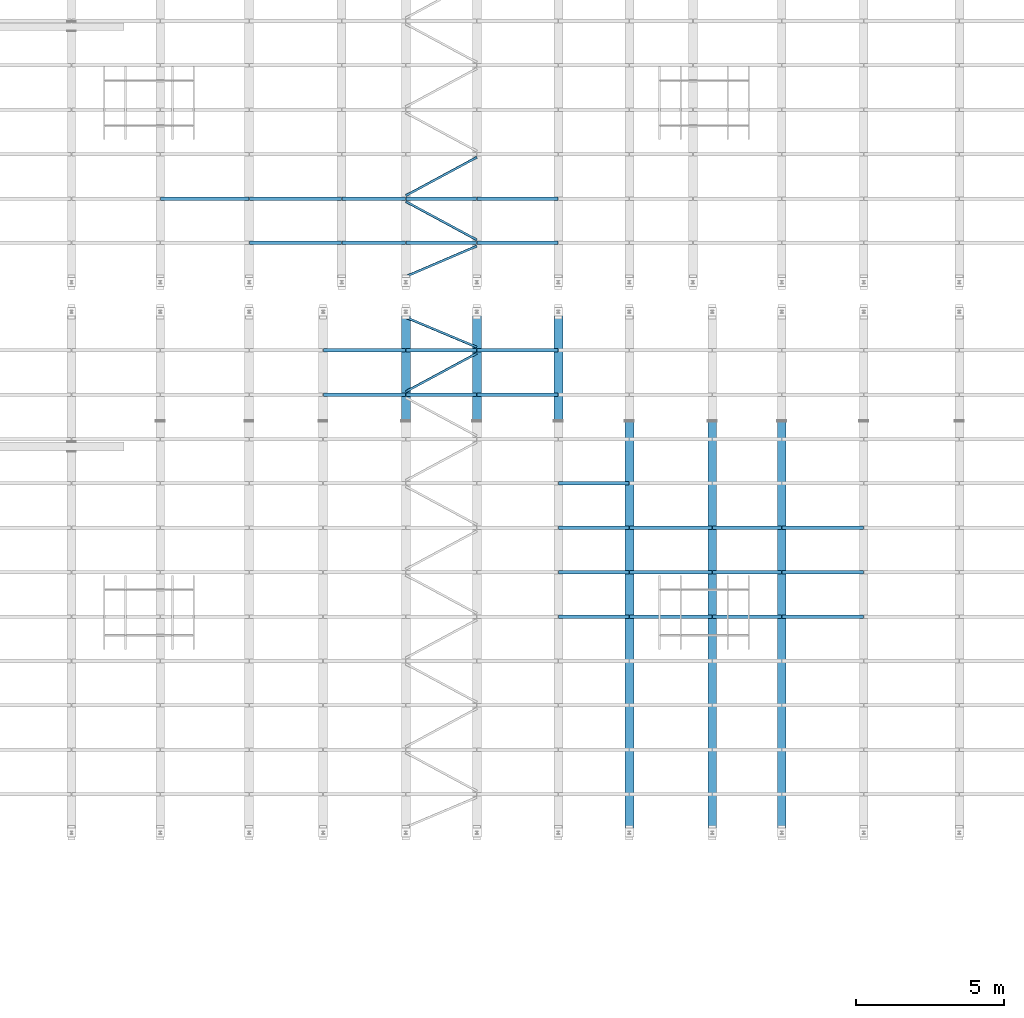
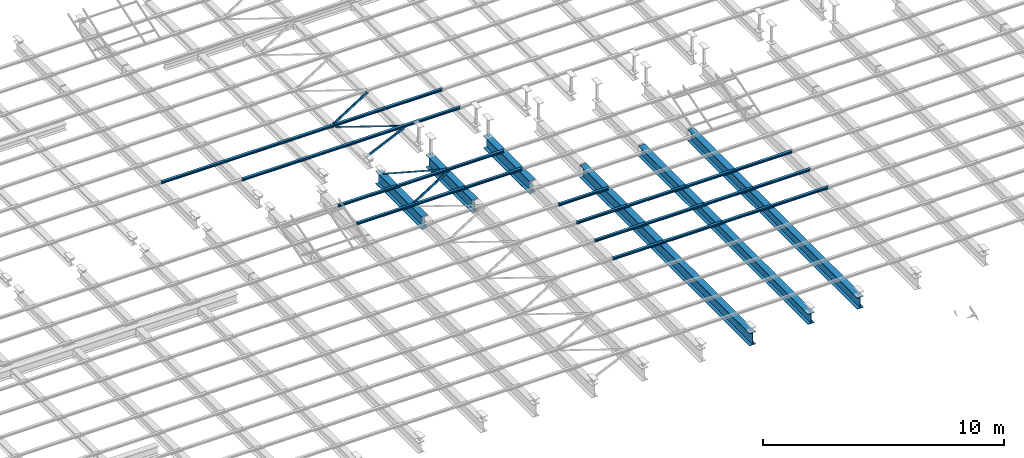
# One storey, part 73 of 139: 39 beams.
"""IFC2X3 building model written with IfcOpenShell, lengths in metres."""

from ifc_helpers import new_model, entity, si_unit, converted_unit, derived_unit, frame, origin, place, context, subcontext, project, spatial, polyline, outline, extrude, material, element, save


model = new_model("IFC2X3")

# Units and contexts
model_context = context("Model", 3, precision=1e-05, world=origin())
body_context = subcontext(model_context, "Body", "Model", "MODEL_VIEW")
ifc_project = project(units=[si_unit("LENGTHUNIT", "METRE"), si_unit("AREAUNIT", "SQUARE_METRE"), si_unit("VOLUMEUNIT", "CUBIC_METRE"), si_unit("MASSUNIT", "GRAM", prefix="KILO"), converted_unit("PLANEANGLEUNIT", "DEGREE", entity("IfcPlaneAngleMeasure", 0.0174532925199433), si_unit("PLANEANGLEUNIT", "RADIAN"), dimensions=[0, 0, 0, 0, 0, 0, 0]), derived_unit("THERMALTRANSMITTANCEUNIT", [(si_unit("POWERUNIT", "WATT"), 1), (si_unit("THERMODYNAMICTEMPERATUREUNIT", "KELVIN"), -1), (si_unit("LENGTHUNIT", "METRE"), -2)]), derived_unit("VOLUMETRICFLOWRATEUNIT", [(si_unit("LENGTHUNIT", "METRE"), 3), (converted_unit("TIMEUNIT", "hour", entity("IfcTimeMeasure", 3600.0), si_unit("TIMEUNIT", "SECOND"), dimensions=[0, 0, 1, 0, 0, 0, 0]), -1), (si_unit("LENGTHUNIT", "METRE"), -1)])], contexts=[model_context])

# Site, building, storey
site_placement = place(None, origin())
site = spatial("IfcSite", under=ifc_project, at=site_placement, Name="TWP_Speiseverteilzentrum SBW VZ II", CompositionType="ELEMENT")
building_placement = place(site_placement, origin())
building = spatial("IfcBuilding", under=site, at=building_placement, Name="Speiseverteilzentrum SBW VZ II", CompositionType="ELEMENT")
storey_placement = place(building_placement, frame((0.0, 0.0, 7.1307)))
storey = spatial("IfcBuildingStorey", under=building, at=storey_placement, Name="Wartung_FFB", CompositionType="ELEMENT", Elevation=7.1307)

# Beams
ifc_material_1 = material(Name="S235")
beam_1_placement = place(storey_placement, frame((84.3500000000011, 70.0522526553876, -0.51), z_axis=(0.0, 0.0, 1.0), x_axis=(-1.0, 0.0, 0.0)))
element("IfcBeam", 1, at=beam_1_placement, inside=storey, material=ifc_material_1, Name="Stahlträger", context=body_context, shape_type="SweptSolid", body=[
    extrude(outline(polyline([(-0.15, 0.32), (-0.15, 0.294), (-0.00675000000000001, 0.294), (-0.00675000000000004, -0.294), (-0.15, -0.294), (-0.15, -0.32), (0.15, -0.32), (0.15, -0.294), (0.00674999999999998, -0.294), (0.00675000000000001, 0.294), (0.15, 0.294), (0.15, 0.32), (-0.15, 0.32)])), frame((0.0, 0.0, 0.0), z_axis=(0.0, 1.0, 0.0), x_axis=(-1.0, 0.0, 0.0)), (0.0, 0.0, 1.0), 3.81699999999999),
])
ifc_material_2 = material(Name="S235")
beam_2_placement = place(storey_placement, frame((86.7500000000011, 70.0522526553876, -0.51), z_axis=(0.0, 0.0, 1.0), x_axis=(-1.0, 0.0, 0.0)))
element("IfcBeam", 2, at=beam_2_placement, inside=storey, material=ifc_material_2, Name="Stahlträger", context=body_context, shape_type="SweptSolid", body=[
    extrude(outline(polyline([(-0.15, 0.32), (-0.15, 0.294), (-0.00675000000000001, 0.294), (-0.00675000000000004, -0.294), (-0.15, -0.294), (-0.15, -0.32), (0.15, -0.32), (0.15, -0.294), (0.00674999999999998, -0.294), (0.00675000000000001, 0.294), (0.15, 0.294), (0.15, 0.32), (-0.15, 0.32)])), frame((0.0, 0.0, 0.0), z_axis=(0.0, 1.0, 0.0), x_axis=(-1.0, 0.0, 0.0)), (0.0, 0.0, 1.0), 3.81699999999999),
])
ifc_material_3 = material(Name="S235")
beam_3_placement = place(storey_placement, frame((89.5000000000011, 70.0522526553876, -0.51), z_axis=(0.0, 0.0, 1.0), x_axis=(-1.0, 0.0, 0.0)))
element("IfcBeam", 3, at=beam_3_placement, inside=storey, material=ifc_material_3, Name="Stahlträger", context=body_context, shape_type="SweptSolid", body=[
    extrude(outline(polyline([(-0.15, 0.32), (-0.15, 0.294), (-0.00675000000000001, 0.294), (-0.00675000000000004, -0.294), (-0.15, -0.294), (-0.15, -0.32), (0.15, -0.32), (0.15, -0.294), (0.00674999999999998, -0.294), (0.00675000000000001, 0.294), (0.15, 0.294), (0.15, 0.32), (-0.15, 0.32)])), frame((0.0, 0.0, 0.0), z_axis=(0.0, 1.0, 0.0), x_axis=(-1.0, 0.0, 0.0)), (0.0, 0.0, 1.0), 3.81699999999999),
])
ifc_material_4 = material(Name="S235")
beam_4_placement = place(storey_placement, frame((91.9000000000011, 66.1852526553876, -0.51), z_axis=(0.0, 0.0, 1.0), x_axis=(-1.0, 0.0, 0.0)))
element("IfcBeam", 4, at=beam_4_placement, inside=storey, material=ifc_material_4, Name="Stahlträger", context=body_context, shape_type="SweptSolid", body=[
    extrude(outline(polyline([(-0.15, 0.32), (-0.15, 0.294), (-0.00675000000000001, 0.294), (-0.00675000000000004, -0.294), (-0.15, -0.294), (-0.15, -0.32), (0.15, -0.32), (0.15, -0.294), (0.00674999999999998, -0.294), (0.00675000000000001, 0.294), (0.15, 0.294), (0.15, 0.32), (-0.15, 0.32)])), frame((0.0, 0.0, 0.0), z_axis=(0.0, 1.0, 0.0), x_axis=(-1.0, 0.0, 0.0)), (0.0, 0.0, 1.0), 14.0352526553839),
])
ifc_material_5 = material(Name="S235")
beam_5_placement = place(storey_placement, frame((94.7000000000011, 66.1852526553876, -0.46), z_axis=(0.0, 0.0, 1.0), x_axis=(-1.0, 0.0, 0.0)))
element("IfcBeam", 5, at=beam_5_placement, inside=storey, material=ifc_material_5, Name="Stahlträger", context=body_context, shape_type="SweptSolid", body=[
    extrude(outline(polyline([(-0.15, 0.27), (-0.15, 0.246), (-0.0062499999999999, 0.246), (-0.00624999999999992, -0.246), (-0.15, -0.246), (-0.15, -0.27), (0.15, -0.27), (0.15, -0.246), (0.00625000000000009, -0.246), (0.00625000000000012, 0.246), (0.15, 0.246), (0.15, 0.27), (-0.15, 0.27)])), frame((0.0, 0.0, 0.0), z_axis=(0.0, 1.0, 0.0), x_axis=(-1.0, 0.0, 0.0)), (0.0, 0.0, 1.0), 14.0352526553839),
])
ifc_material_6 = material(Name="S235")
beam_6_placement = place(storey_placement, frame((97.0500000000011, 66.1852526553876, -0.485), z_axis=(0.0, 0.0, 1.0), x_axis=(-1.0, 0.0, 0.0)))
element("IfcBeam", 6, at=beam_6_placement, inside=storey, material=ifc_material_6, Name="Stahlträger", context=body_context, shape_type="SweptSolid", body=[
    extrude(outline(polyline([(-0.15, 0.295), (-0.15, 0.27), (-0.0065, 0.27), (-0.00650000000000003, -0.27), (-0.15, -0.27), (-0.15, -0.295), (0.15, -0.295), (0.15, -0.27), (0.00649999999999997, -0.27), (0.00650000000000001, 0.27), (0.15, 0.27), (0.15, 0.295), (-0.15, 0.295)])), frame((0.0, 0.0, 0.0), z_axis=(0.0, 1.0, 0.0), x_axis=(-1.0, 0.0, 0.0)), (0.0, 0.0, 1.0), 14.0352526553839),
])
ifc_material_7 = material(Name="S235")
beam_7_placement = place(storey_placement, frame((76.0600000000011, 73.7261263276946, -0.133), z_axis=(0.0, 0.0, 1.0), x_axis=(0.0, -1.0, 0.0)))
element("IfcBeam", 7, at=beam_7_placement, inside=storey, material=ifc_material_7, Name="Nebenträger", context=body_context, shape_type="SweptSolid", body=[
    extrude(outline(polyline([(-0.06, 0.0570000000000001), (-0.06, 0.0490000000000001), (-0.00249999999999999, 0.0490000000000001), (-0.0025, -0.0489999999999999), (-0.06, -0.0489999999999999), (-0.06, -0.0569999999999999), (0.06, -0.0569999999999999), (0.06, -0.0489999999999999), (0.0025, -0.0489999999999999), (0.00250000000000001, 0.0490000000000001), (0.06, 0.0490000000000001), (0.06, 0.0570000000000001), (-0.06, 0.0570000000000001)])), frame((0.0, 0.0, 0.0), z_axis=(0.0, 1.0, 0.0), x_axis=(-1.0, 0.0, 0.0)), (0.0, 0.0, 1.0), 2.98),
])
ifc_material_8 = material(Name="S235")
beam_8_placement = place(storey_placement, frame((81.5600000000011, 68.6011263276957, -0.133), z_axis=(0.0, 0.0, 1.0), x_axis=(0.0, -1.0, 0.0)))
element("IfcBeam", 8, at=beam_8_placement, inside=storey, material=ifc_material_8, Name="Nebenträger", context=body_context, shape_type="SweptSolid", body=[
    extrude(outline(polyline([(-0.06, 0.0570000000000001), (-0.06, 0.0490000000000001), (-0.00249999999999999, 0.0490000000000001), (-0.0025, -0.0489999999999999), (-0.06, -0.0489999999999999), (-0.06, -0.0569999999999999), (0.06, -0.0569999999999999), (0.06, -0.0489999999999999), (0.0025, -0.0489999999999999), (0.00250000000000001, 0.0490000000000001), (0.06, 0.0490000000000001), (0.06, 0.0570000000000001), (-0.06, 0.0570000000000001)])), frame((0.0, 0.0, 0.0), z_axis=(0.0, 1.0, 0.0), x_axis=(-1.0, 0.0, 0.0)), (0.0, 0.0, 1.0), 2.78),
])
ifc_material_9 = material(Name="S235")
beam_9_placement = place(storey_placement, frame((81.5600000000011, 67.1011263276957, -0.133), z_axis=(0.0, 0.0, 1.0), x_axis=(0.0, -1.0, 0.0)))
element("IfcBeam", 9, at=beam_9_placement, inside=storey, material=ifc_material_9, Name="Nebenträger", context=body_context, shape_type="SweptSolid", body=[
    extrude(outline(polyline([(-0.06, 0.0570000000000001), (-0.06, 0.0490000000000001), (-0.00249999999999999, 0.0490000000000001), (-0.0025, -0.0489999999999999), (-0.06, -0.0489999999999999), (-0.06, -0.0569999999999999), (0.06, -0.0569999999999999), (0.06, -0.0489999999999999), (0.0025, -0.0489999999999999), (0.00250000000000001, 0.0490000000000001), (0.06, 0.0490000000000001), (0.06, 0.0570000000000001), (-0.06, 0.0570000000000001)])), frame((0.0, 0.0, 0.0), z_axis=(0.0, 1.0, 0.0), x_axis=(-1.0, 0.0, 0.0)), (0.0, 0.0, 1.0), 2.78),
])
ifc_material_10 = material(Name="S235")
beam_10_placement = place(storey_placement, frame((84.3600000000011, 68.6011263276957, -0.133), z_axis=(0.0, 0.0, 1.0), x_axis=(0.0, -1.0, 0.0)))
element("IfcBeam", 10, at=beam_10_placement, inside=storey, material=ifc_material_10, Name="Nebenträger", context=body_context, shape_type="SweptSolid", body=[
    extrude(outline(polyline([(-0.06, 0.0570000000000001), (-0.06, 0.0490000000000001), (-0.00249999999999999, 0.0490000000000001), (-0.0025, -0.0489999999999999), (-0.06, -0.0489999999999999), (-0.06, -0.0569999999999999), (0.06, -0.0569999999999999), (0.06, -0.0489999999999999), (0.0025, -0.0489999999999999), (0.00250000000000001, 0.0490000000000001), (0.06, 0.0490000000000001), (0.06, 0.0570000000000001), (-0.06, 0.0570000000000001)])), frame((0.0, 0.0, 0.0), z_axis=(0.0, 1.0, 0.0), x_axis=(-1.0, 0.0, 0.0)), (0.0, 0.0, 1.0), 2.38),
])
ifc_material_11 = material(Name="S235")
beam_11_placement = place(storey_placement, frame((84.3600000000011, 67.1011263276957, -0.133), z_axis=(0.0, 0.0, 1.0), x_axis=(0.0, -1.0, 0.0)))
element("IfcBeam", 11, at=beam_11_placement, inside=storey, material=ifc_material_11, Name="Nebenträger", context=body_context, shape_type="SweptSolid", body=[
    extrude(outline(polyline([(-0.06, 0.0570000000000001), (-0.06, 0.0490000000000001), (-0.00249999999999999, 0.0490000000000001), (-0.0025, -0.0489999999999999), (-0.06, -0.0489999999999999), (-0.06, -0.0569999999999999), (0.06, -0.0569999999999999), (0.06, -0.0489999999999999), (0.0025, -0.0489999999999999), (0.00250000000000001, 0.0490000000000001), (0.06, 0.0490000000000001), (0.06, 0.0570000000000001), (-0.06, 0.0570000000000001)])), frame((0.0, 0.0, 0.0), z_axis=(0.0, 1.0, 0.0), x_axis=(-1.0, 0.0, 0.0)), (0.0, 0.0, 1.0), 2.38),
])
ifc_material_12 = material(Name="S235")
beam_12_placement = place(storey_placement, frame((86.7600000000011, 68.6011263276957, -0.133), z_axis=(0.0, 0.0, 1.0), x_axis=(0.0, -1.0, 0.0)))
element("IfcBeam", 12, at=beam_12_placement, inside=storey, material=ifc_material_12, Name="Nebenträger", context=body_context, shape_type="SweptSolid", body=[
    extrude(outline(polyline([(-0.06, 0.0570000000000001), (-0.06, 0.0490000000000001), (-0.00249999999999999, 0.0490000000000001), (-0.0025, -0.0489999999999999), (-0.06, -0.0489999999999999), (-0.06, -0.0569999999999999), (0.06, -0.0569999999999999), (0.06, -0.0489999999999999), (0.0025, -0.0489999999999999), (0.00250000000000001, 0.0490000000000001), (0.06, 0.0490000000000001), (0.06, 0.0570000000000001), (-0.06, 0.0570000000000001)])), frame((0.0, 0.0, 0.0), z_axis=(0.0, 1.0, 0.0), x_axis=(-1.0, 0.0, 0.0)), (0.0, 0.0, 1.0), 2.73),
])
ifc_material_13 = material(Name="S235")
beam_13_placement = place(storey_placement, frame((86.7600000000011, 67.1011263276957, -0.133), z_axis=(0.0, 0.0, 1.0), x_axis=(0.0, -1.0, 0.0)))
element("IfcBeam", 13, at=beam_13_placement, inside=storey, material=ifc_material_13, Name="Nebenträger", context=body_context, shape_type="SweptSolid", body=[
    extrude(outline(polyline([(-0.06, 0.0570000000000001), (-0.06, 0.0490000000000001), (-0.00249999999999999, 0.0490000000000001), (-0.0025, -0.0489999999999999), (-0.06, -0.0489999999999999), (-0.06, -0.0569999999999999), (0.06, -0.0569999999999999), (0.06, -0.0489999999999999), (0.0025, -0.0489999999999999), (0.00250000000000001, 0.0490000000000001), (0.06, 0.0490000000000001), (0.06, 0.0570000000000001), (-0.06, 0.0570000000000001)])), frame((0.0, 0.0, 0.0), z_axis=(0.0, 1.0, 0.0), x_axis=(-1.0, 0.0, 0.0)), (0.0, 0.0, 1.0), 2.73),
])
ifc_material_14 = material(Name="S235")
beam_14_placement = place(storey_placement, frame((89.5100000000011, 64.1011263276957, -0.133), z_axis=(0.0, 0.0, 1.0), x_axis=(0.0, -1.0, 0.0)))
element("IfcBeam", 14, at=beam_14_placement, inside=storey, material=ifc_material_14, Name="Nebenträger", context=body_context, shape_type="SweptSolid", body=[
    extrude(outline(polyline([(-0.06, 0.0570000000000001), (-0.06, 0.0490000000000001), (-0.00249999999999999, 0.0490000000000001), (-0.0025, -0.0489999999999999), (-0.06, -0.0489999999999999), (-0.06, -0.0569999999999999), (0.06, -0.0569999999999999), (0.06, -0.0489999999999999), (0.0025, -0.0489999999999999), (0.00250000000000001, 0.0490000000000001), (0.06, 0.0490000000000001), (0.06, 0.0570000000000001), (-0.06, 0.0570000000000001)])), frame((0.0, 0.0, 0.0), z_axis=(0.0, 1.0, 0.0), x_axis=(-1.0, 0.0, 0.0)), (0.0, 0.0, 1.0), 2.38),
])
ifc_material_15 = material(Name="S235")
beam_15_placement = place(storey_placement, frame((89.5100000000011, 62.6011263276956, -0.133), z_axis=(0.0, 0.0, 1.0), x_axis=(0.0, -1.0, 0.0)))
element("IfcBeam", 15, at=beam_15_placement, inside=storey, material=ifc_material_15, Name="Nebenträger", context=body_context, shape_type="SweptSolid", body=[
    extrude(outline(polyline([(-0.06, 0.0570000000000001), (-0.06, 0.0490000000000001), (-0.00249999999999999, 0.0490000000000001), (-0.0025, -0.0489999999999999), (-0.06, -0.0489999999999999), (-0.06, -0.0569999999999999), (0.06, -0.0569999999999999), (0.06, -0.0489999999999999), (0.0025, -0.0489999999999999), (0.00250000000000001, 0.0490000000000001), (0.06, 0.0490000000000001), (0.06, 0.0570000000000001), (-0.06, 0.0570000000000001)])), frame((0.0, 0.0, 0.0), z_axis=(0.0, 1.0, 0.0), x_axis=(-1.0, 0.0, 0.0)), (0.0, 0.0, 1.0), 2.38),
])
ifc_material_16 = material(Name="S235")
beam_16_placement = place(storey_placement, frame((89.5100000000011, 61.1011263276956, -0.133), z_axis=(0.0, 0.0, 1.0), x_axis=(0.0, -1.0, 0.0)))
element("IfcBeam", 16, at=beam_16_placement, inside=storey, material=ifc_material_16, Name="Nebenträger", context=body_context, shape_type="SweptSolid", body=[
    extrude(outline(polyline([(-0.06, 0.0570000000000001), (-0.06, 0.0490000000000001), (-0.00249999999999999, 0.0490000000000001), (-0.0025, -0.0489999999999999), (-0.06, -0.0489999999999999), (-0.06, -0.0569999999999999), (0.06, -0.0569999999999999), (0.06, -0.0489999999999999), (0.0025, -0.0489999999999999), (0.00250000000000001, 0.0490000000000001), (0.06, 0.0490000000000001), (0.06, 0.0570000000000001), (-0.06, 0.0570000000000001)])), frame((0.0, 0.0, 0.0), z_axis=(0.0, 1.0, 0.0), x_axis=(-1.0, 0.0, 0.0)), (0.0, 0.0, 1.0), 2.38),
])
ifc_material_17 = material(Name="S235")
beam_17_placement = place(storey_placement, frame((89.5100000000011, 59.6011263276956, -0.133), z_axis=(0.0, 0.0, 1.0), x_axis=(0.0, -1.0, 0.0)))
element("IfcBeam", 17, at=beam_17_placement, inside=storey, material=ifc_material_17, Name="Nebenträger", context=body_context, shape_type="SweptSolid", body=[
    extrude(outline(polyline([(-0.06, 0.0570000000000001), (-0.06, 0.0490000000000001), (-0.00249999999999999, 0.0490000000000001), (-0.0025, -0.0489999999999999), (-0.06, -0.0489999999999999), (-0.06, -0.0569999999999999), (0.06, -0.0569999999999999), (0.06, -0.0489999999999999), (0.0025, -0.0489999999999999), (0.00250000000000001, 0.0490000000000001), (0.06, 0.0490000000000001), (0.06, 0.0570000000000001), (-0.06, 0.0570000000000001)])), frame((0.0, 0.0, 0.0), z_axis=(0.0, 1.0, 0.0), x_axis=(-1.0, 0.0, 0.0)), (0.0, 0.0, 1.0), 2.38),
])
ifc_material_18 = material(Name="S235")
beam_18_placement = place(storey_placement, frame((94.7100000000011, 62.6011263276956, -0.133), z_axis=(0.0, 0.0, 1.0), x_axis=(0.0, -1.0, 0.0)))
element("IfcBeam", 18, at=beam_18_placement, inside=storey, material=ifc_material_18, Name="Nebenträger", context=body_context, shape_type="SweptSolid", body=[
    extrude(outline(polyline([(-0.06, 0.0570000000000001), (-0.06, 0.0490000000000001), (-0.00249999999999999, 0.0490000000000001), (-0.0025, -0.0489999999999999), (-0.06, -0.0489999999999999), (-0.06, -0.0569999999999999), (0.06, -0.0569999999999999), (0.06, -0.0489999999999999), (0.0025, -0.0489999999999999), (0.00250000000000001, 0.0490000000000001), (0.06, 0.0490000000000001), (0.06, 0.0570000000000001), (-0.06, 0.0570000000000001)])), frame((0.0, 0.0, 0.0), z_axis=(0.0, 1.0, 0.0), x_axis=(-1.0, 0.0, 0.0)), (0.0, 0.0, 1.0), 2.33),
])
ifc_material_19 = material(Name="S235")
beam_19_placement = place(storey_placement, frame((94.7100000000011, 61.1011263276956, -0.133), z_axis=(0.0, 0.0, 1.0), x_axis=(0.0, -1.0, 0.0)))
element("IfcBeam", 19, at=beam_19_placement, inside=storey, material=ifc_material_19, Name="Nebenträger", context=body_context, shape_type="SweptSolid", body=[
    extrude(outline(polyline([(-0.06, 0.0570000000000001), (-0.06, 0.0490000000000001), (-0.00249999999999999, 0.0490000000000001), (-0.0025, -0.0489999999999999), (-0.06, -0.0489999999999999), (-0.06, -0.0569999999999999), (0.06, -0.0569999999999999), (0.06, -0.0489999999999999), (0.0025, -0.0489999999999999), (0.00250000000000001, 0.0490000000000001), (0.06, 0.0490000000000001), (0.06, 0.0570000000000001), (-0.06, 0.0570000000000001)])), frame((0.0, 0.0, 0.0), z_axis=(0.0, 1.0, 0.0), x_axis=(-1.0, 0.0, 0.0)), (0.0, 0.0, 1.0), 2.33),
])
ifc_material_20 = material(Name="S235")
beam_20_placement = place(storey_placement, frame((94.7100000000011, 59.6011263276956, -0.133), z_axis=(0.0, 0.0, 1.0), x_axis=(0.0, -1.0, 0.0)))
element("IfcBeam", 20, at=beam_20_placement, inside=storey, material=ifc_material_20, Name="Nebenträger", context=body_context, shape_type="SweptSolid", body=[
    extrude(outline(polyline([(-0.06, 0.0570000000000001), (-0.06, 0.0490000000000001), (-0.00249999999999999, 0.0490000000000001), (-0.0025, -0.0489999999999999), (-0.06, -0.0489999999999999), (-0.06, -0.0569999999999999), (0.06, -0.0569999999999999), (0.06, -0.0489999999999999), (0.0025, -0.0489999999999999), (0.00250000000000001, 0.0490000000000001), (0.06, 0.0490000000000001), (0.06, 0.0570000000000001), (-0.06, 0.0570000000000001)])), frame((0.0, 0.0, 0.0), z_axis=(0.0, 1.0, 0.0), x_axis=(-1.0, 0.0, 0.0)), (0.0, 0.0, 1.0), 2.33),
])
ifc_material_21 = material(Name="S235")
beam_21_placement = place(storey_placement, frame((91.9100000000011, 62.6011263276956, -0.133), z_axis=(0.0, 0.0, 1.0), x_axis=(0.0, -1.0, 0.0)))
element("IfcBeam", 21, at=beam_21_placement, inside=storey, material=ifc_material_21, Name="Nebenträger", context=body_context, shape_type="SweptSolid", body=[
    extrude(outline(polyline([(-0.06, 0.0570000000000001), (-0.06, 0.0490000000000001), (-0.00249999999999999, 0.0490000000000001), (-0.0025, -0.0489999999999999), (-0.06, -0.0489999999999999), (-0.06, -0.0569999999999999), (0.06, -0.0569999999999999), (0.06, -0.0489999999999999), (0.0025, -0.0489999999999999), (0.00250000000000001, 0.0490000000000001), (0.06, 0.0490000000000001), (0.06, 0.0570000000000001), (-0.06, 0.0570000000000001)])), frame((0.0, 0.0, 0.0), z_axis=(0.0, 1.0, 0.0), x_axis=(-1.0, 0.0, 0.0)), (0.0, 0.0, 1.0), 2.78),
])
ifc_material_22 = material(Name="S235")
beam_22_placement = place(storey_placement, frame((91.9100000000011, 61.1011263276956, -0.133), z_axis=(0.0, 0.0, 1.0), x_axis=(0.0, -1.0, 0.0)))
element("IfcBeam", 22, at=beam_22_placement, inside=storey, material=ifc_material_22, Name="Nebenträger", context=body_context, shape_type="SweptSolid", body=[
    extrude(outline(polyline([(-0.06, 0.0570000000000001), (-0.06, 0.0490000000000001), (-0.00249999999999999, 0.0490000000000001), (-0.0025, -0.0489999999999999), (-0.06, -0.0489999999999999), (-0.06, -0.0569999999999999), (0.06, -0.0569999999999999), (0.06, -0.0489999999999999), (0.0025, -0.0489999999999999), (0.00250000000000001, 0.0490000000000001), (0.06, 0.0490000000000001), (0.06, 0.0570000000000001), (-0.06, 0.0570000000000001)])), frame((0.0, 0.0, 0.0), z_axis=(0.0, 1.0, 0.0), x_axis=(-1.0, 0.0, 0.0)), (0.0, 0.0, 1.0), 2.78),
])
ifc_material_23 = material(Name="S235")
beam_23_placement = place(storey_placement, frame((91.9100000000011, 59.6011263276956, -0.133), z_axis=(0.0, 0.0, 1.0), x_axis=(0.0, -1.0, 0.0)))
element("IfcBeam", 23, at=beam_23_placement, inside=storey, material=ifc_material_23, Name="Nebenträger", context=body_context, shape_type="SweptSolid", body=[
    extrude(outline(polyline([(-0.06, 0.0570000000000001), (-0.06, 0.0490000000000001), (-0.00249999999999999, 0.0490000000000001), (-0.0025, -0.0489999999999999), (-0.06, -0.0489999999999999), (-0.06, -0.0569999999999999), (0.06, -0.0569999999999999), (0.06, -0.0489999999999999), (0.0025, -0.0489999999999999), (0.00250000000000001, 0.0490000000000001), (0.06, 0.0490000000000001), (0.06, 0.0570000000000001), (-0.06, 0.0570000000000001)])), frame((0.0, 0.0, 0.0), z_axis=(0.0, 1.0, 0.0), x_axis=(-1.0, 0.0, 0.0)), (0.0, 0.0, 1.0), 2.78),
])
ifc_material_24 = material(Name="S235")
beam_24_placement = place(storey_placement, frame((86.7600000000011, 73.7261263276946, -0.133), z_axis=(0.0, 0.0, 1.0), x_axis=(0.0, -1.0, 0.0)))
element("IfcBeam", 24, at=beam_24_placement, inside=storey, material=ifc_material_24, Name="Nebenträger", context=body_context, shape_type="SweptSolid", body=[
    extrude(outline(polyline([(-0.06, 0.0570000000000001), (-0.06, 0.0490000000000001), (-0.00249999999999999, 0.0490000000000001), (-0.0025, -0.0489999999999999), (-0.06, -0.0489999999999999), (-0.06, -0.0569999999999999), (0.06, -0.0569999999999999), (0.06, -0.0489999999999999), (0.0025, -0.0489999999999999), (0.00250000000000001, 0.0490000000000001), (0.06, 0.0490000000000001), (0.06, 0.0570000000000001), (-0.06, 0.0570000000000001)])), frame((0.0, 0.0, 0.0), z_axis=(0.0, 1.0, 0.0), x_axis=(-1.0, 0.0, 0.0)), (0.0, 0.0, 1.0), 2.73),
])
ifc_material_25 = material(Name="S235")
beam_25_placement = place(storey_placement, frame((86.7600000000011, 72.2261263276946, -0.133), z_axis=(0.0, 0.0, 1.0), x_axis=(0.0, -1.0, 0.0)))
element("IfcBeam", 25, at=beam_25_placement, inside=storey, material=ifc_material_25, Name="Nebenträger", context=body_context, shape_type="SweptSolid", body=[
    extrude(outline(polyline([(-0.06, 0.0570000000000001), (-0.06, 0.0490000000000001), (-0.00249999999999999, 0.0490000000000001), (-0.0025, -0.0489999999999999), (-0.06, -0.0489999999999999), (-0.06, -0.0569999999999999), (0.06, -0.0569999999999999), (0.06, -0.0489999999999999), (0.0025, -0.0489999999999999), (0.00250000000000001, 0.0490000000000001), (0.06, 0.0490000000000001), (0.06, 0.0570000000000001), (-0.06, 0.0570000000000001)])), frame((0.0, 0.0, 0.0), z_axis=(0.0, 1.0, 0.0), x_axis=(-1.0, 0.0, 0.0)), (0.0, 0.0, 1.0), 2.73),
])
ifc_material_26 = material(Name="S235")
beam_26_placement = place(storey_placement, frame((84.3600000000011, 73.7261263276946, -0.133), z_axis=(0.0, 0.0, 1.0), x_axis=(0.0, -1.0, 0.0)))
element("IfcBeam", 26, at=beam_26_placement, inside=storey, material=ifc_material_26, Name="Nebenträger", context=body_context, shape_type="SweptSolid", body=[
    extrude(outline(polyline([(-0.06, 0.0570000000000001), (-0.06, 0.0490000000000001), (-0.00249999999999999, 0.0490000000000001), (-0.0025, -0.0489999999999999), (-0.06, -0.0489999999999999), (-0.06, -0.0569999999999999), (0.06, -0.0569999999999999), (0.06, -0.0489999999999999), (0.0025, -0.0489999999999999), (0.00250000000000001, 0.0490000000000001), (0.06, 0.0490000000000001), (0.06, 0.0570000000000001), (-0.06, 0.0570000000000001)])), frame((0.0, 0.0, 0.0), z_axis=(0.0, 1.0, 0.0), x_axis=(-1.0, 0.0, 0.0)), (0.0, 0.0, 1.0), 2.38),
])
ifc_material_27 = material(Name="S235")
beam_27_placement = place(storey_placement, frame((84.3600000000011, 72.2261263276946, -0.133), z_axis=(0.0, 0.0, 1.0), x_axis=(0.0, -1.0, 0.0)))
element("IfcBeam", 27, at=beam_27_placement, inside=storey, material=ifc_material_27, Name="Nebenträger", context=body_context, shape_type="SweptSolid", body=[
    extrude(outline(polyline([(-0.06, 0.0570000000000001), (-0.06, 0.0490000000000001), (-0.00249999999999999, 0.0490000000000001), (-0.0025, -0.0489999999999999), (-0.06, -0.0489999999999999), (-0.06, -0.0569999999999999), (0.06, -0.0569999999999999), (0.06, -0.0489999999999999), (0.0025, -0.0489999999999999), (0.00250000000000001, 0.0490000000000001), (0.06, 0.0490000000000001), (0.06, 0.0570000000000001), (-0.06, 0.0570000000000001)])), frame((0.0, 0.0, 0.0), z_axis=(0.0, 1.0, 0.0), x_axis=(-1.0, 0.0, 0.0)), (0.0, 0.0, 1.0), 2.38),
])
ifc_material_28 = material(Name="S235")
beam_28_placement = place(storey_placement, frame((79.0600000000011, 73.7261263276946, -0.133), z_axis=(0.0, 0.0, 1.0), x_axis=(0.0, -1.0, 0.0)))
element("IfcBeam", 28, at=beam_28_placement, inside=storey, material=ifc_material_28, Name="Nebenträger", context=body_context, shape_type="SweptSolid", body=[
    extrude(outline(polyline([(-0.06, 0.0570000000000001), (-0.06, 0.0490000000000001), (-0.00249999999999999, 0.0490000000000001), (-0.0025, -0.0489999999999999), (-0.06, -0.0489999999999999), (-0.06, -0.0569999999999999), (0.06, -0.0569999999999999), (0.06, -0.0489999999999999), (0.0025, -0.0489999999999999), (0.00250000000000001, 0.0490000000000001), (0.06, 0.0490000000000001), (0.06, 0.0570000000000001), (-0.06, 0.0570000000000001)])), frame((0.0, 0.0, 0.0), z_axis=(0.0, 1.0, 0.0), x_axis=(-1.0, 0.0, 0.0)), (0.0, 0.0, 1.0), 3.11),
])
ifc_material_29 = material(Name="S235")
beam_29_placement = place(storey_placement, frame((79.0600000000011, 72.2261263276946, -0.133), z_axis=(0.0, 0.0, 1.0), x_axis=(0.0, -1.0, 0.0)))
element("IfcBeam", 29, at=beam_29_placement, inside=storey, material=ifc_material_29, Name="Nebenträger", context=body_context, shape_type="SweptSolid", body=[
    extrude(outline(polyline([(-0.06, 0.0570000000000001), (-0.06, 0.0490000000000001), (-0.00249999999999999, 0.0490000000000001), (-0.0025, -0.0489999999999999), (-0.06, -0.0489999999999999), (-0.06, -0.0569999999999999), (0.06, -0.0569999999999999), (0.06, -0.0489999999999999), (0.0025, -0.0489999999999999), (0.00250000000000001, 0.0490000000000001), (0.06, 0.0490000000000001), (0.06, 0.0570000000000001), (-0.06, 0.0570000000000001)])), frame((0.0, 0.0, 0.0), z_axis=(0.0, 1.0, 0.0), x_axis=(-1.0, 0.0, 0.0)), (0.0, 0.0, 1.0), 3.11),
])
ifc_material_30 = material(Name="S235")
beam_30_placement = place(storey_placement, frame((82.1900000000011, 73.7261263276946, -0.133), z_axis=(0.0, 0.0, 1.0), x_axis=(0.0, -1.0, 0.0)))
element("IfcBeam", 30, at=beam_30_placement, inside=storey, material=ifc_material_30, Name="Nebenträger", context=body_context, shape_type="SweptSolid", body=[
    extrude(outline(polyline([(-0.06, 0.0570000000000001), (-0.06, 0.0490000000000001), (-0.00249999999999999, 0.0490000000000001), (-0.0025, -0.0489999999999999), (-0.06, -0.0489999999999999), (-0.06, -0.0569999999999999), (0.06, -0.0569999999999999), (0.06, -0.0489999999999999), (0.0025, -0.0489999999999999), (0.00250000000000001, 0.0490000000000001), (0.06, 0.0490000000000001), (0.06, 0.0570000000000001), (-0.06, 0.0570000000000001)])), frame((0.0, 0.0, 0.0), z_axis=(0.0, 1.0, 0.0), x_axis=(-1.0, 0.0, 0.0)), (0.0, 0.0, 1.0), 2.15),
])
ifc_material_31 = material(Name="S235")
beam_31_placement = place(storey_placement, frame((82.1900000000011, 72.2261263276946, -0.133), z_axis=(0.0, 0.0, 1.0), x_axis=(0.0, -1.0, 0.0)))
element("IfcBeam", 31, at=beam_31_placement, inside=storey, material=ifc_material_31, Name="Nebenträger", context=body_context, shape_type="SweptSolid", body=[
    extrude(outline(polyline([(-0.06, 0.0570000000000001), (-0.06, 0.0490000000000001), (-0.00249999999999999, 0.0490000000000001), (-0.0025, -0.0489999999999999), (-0.06, -0.0489999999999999), (-0.06, -0.0569999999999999), (0.06, -0.0569999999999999), (0.06, -0.0489999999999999), (0.0025, -0.0489999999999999), (0.00250000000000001, 0.0490000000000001), (0.06, 0.0490000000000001), (0.06, 0.0570000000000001), (-0.06, 0.0570000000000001)])), frame((0.0, 0.0, 0.0), z_axis=(0.0, 1.0, 0.0), x_axis=(-1.0, 0.0, 0.0)), (0.0, 0.0, 1.0), 2.15),
])
ifc_material_32 = material(Name="S235")
beam_32_placement = place(storey_placement, frame((97.0600000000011, 62.6011263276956, -0.133), z_axis=(0.0, 0.0, 1.0), x_axis=(0.0, -1.0, 0.0)))
element("IfcBeam", 32, at=beam_32_placement, inside=storey, material=ifc_material_32, Name="Nebenträger", context=body_context, shape_type="SweptSolid", body=[
    extrude(outline(polyline([(-0.06, 0.0570000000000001), (-0.06, 0.0490000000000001), (-0.00249999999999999, 0.0490000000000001), (-0.0025, -0.0489999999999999), (-0.06, -0.0489999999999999), (-0.06, -0.0569999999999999), (0.06, -0.0569999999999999), (0.06, -0.0489999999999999), (0.0025, -0.0489999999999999), (0.00250000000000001, 0.0490000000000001), (0.06, 0.0490000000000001), (0.06, 0.0570000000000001), (-0.06, 0.0570000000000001)])), frame((0.0, 0.0, 0.0), z_axis=(0.0, 1.0, 0.0), x_axis=(-1.0, 0.0, 0.0)), (0.0, 0.0, 1.0), 2.75),
])
ifc_material_33 = material(Name="S235")
beam_33_placement = place(storey_placement, frame((97.0600000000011, 61.1011263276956, -0.133), z_axis=(0.0, 0.0, 1.0), x_axis=(0.0, -1.0, 0.0)))
element("IfcBeam", 33, at=beam_33_placement, inside=storey, material=ifc_material_33, Name="Nebenträger", context=body_context, shape_type="SweptSolid", body=[
    extrude(outline(polyline([(-0.06, 0.0570000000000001), (-0.06, 0.0490000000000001), (-0.00249999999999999, 0.0490000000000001), (-0.0025, -0.0489999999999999), (-0.06, -0.0489999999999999), (-0.06, -0.0569999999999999), (0.06, -0.0569999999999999), (0.06, -0.0489999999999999), (0.0025, -0.0489999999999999), (0.00250000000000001, 0.0490000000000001), (0.06, 0.0490000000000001), (0.06, 0.0570000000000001), (-0.06, 0.0570000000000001)])), frame((0.0, 0.0, 0.0), z_axis=(0.0, 1.0, 0.0), x_axis=(-1.0, 0.0, 0.0)), (0.0, 0.0, 1.0), 2.75),
])
ifc_material_34 = material(Name="S235")
beam_34_placement = place(storey_placement, frame((97.0600000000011, 59.6011263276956, -0.133), z_axis=(0.0, 0.0, 1.0), x_axis=(0.0, -1.0, 0.0)))
element("IfcBeam", 34, at=beam_34_placement, inside=storey, material=ifc_material_34, Name="Nebenträger", context=body_context, shape_type="SweptSolid", body=[
    extrude(outline(polyline([(-0.06, 0.0570000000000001), (-0.06, 0.0490000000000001), (-0.00249999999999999, 0.0490000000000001), (-0.0025, -0.0489999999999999), (-0.06, -0.0489999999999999), (-0.06, -0.0569999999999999), (0.06, -0.0569999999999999), (0.06, -0.0489999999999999), (0.0025, -0.0489999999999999), (0.00250000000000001, 0.0490000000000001), (0.06, 0.0490000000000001), (0.06, 0.0570000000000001), (-0.06, 0.0570000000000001)])), frame((0.0, 0.0, 0.0), z_axis=(0.0, 1.0, 0.0), x_axis=(-1.0, 0.0, 0.0)), (0.0, 0.0, 1.0), 2.75),
])
ifc_material_35 = material(Name="S235")
beam_35_placement = place(storey_placement, frame((84.3361915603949, 67.2173406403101, -0.167052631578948), z_axis=(0.0, 0.0, 1.0), x_axis=(0.474803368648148, -0.880091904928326, 0.0)))
element("IfcBeam", 35, at=beam_35_placement, inside=storey, material=ifc_material_35, Name="Kreuzverband", context=body_context, shape_type="SweptSolid", body=[
    extrude(outline(polyline([(0.0229473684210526, -0.0229473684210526), (0.0229473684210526, 0.0570526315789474), (0.0149473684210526, 0.0570526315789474), (0.0149473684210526, -0.0149473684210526), (-0.0570526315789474, -0.0149473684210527), (-0.0570526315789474, -0.0229473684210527), (0.0229473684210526, -0.0229473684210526)])), frame((0.0, 0.0, 0.0), z_axis=(0.0, 1.00000000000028, 0.0), x_axis=(-1.0, 0.0, 0.0)), (0.0, 0.0, 1.0), 2.73000000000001),
])
ifc_material_36 = material(Name="S235")
beam_36_placement = place(storey_placement, frame((84.3361915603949, 73.842340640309, -0.167052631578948), z_axis=(0.0, 0.0, 1.0), x_axis=(0.474803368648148, -0.880091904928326, 0.0)))
element("IfcBeam", 36, at=beam_36_placement, inside=storey, material=ifc_material_36, Name="Kreuzverband", context=body_context, shape_type="SweptSolid", body=[
    extrude(outline(polyline([(0.0229473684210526, -0.0229473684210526), (0.0229473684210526, 0.0570526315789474), (0.0149473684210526, 0.0570526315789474), (0.0149473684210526, -0.0149473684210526), (-0.0570526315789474, -0.0149473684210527), (-0.0570526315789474, -0.0229473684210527), (0.0229473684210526, -0.0229473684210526)])), frame((0.0, 0.0, 0.0), z_axis=(0.0, 1.00000000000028, 0.0), x_axis=(-1.0, 0.0, 0.0)), (0.0, 0.0, 1.0), 2.73000000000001),
])
ifc_material_37 = material(Name="S235")
beam_37_placement = place(storey_placement, frame((84.3361915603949, 73.6099120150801, -0.167052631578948), z_axis=(0.0, 0.0, 1.0), x_axis=(-0.47480336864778, -0.880091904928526, 0.0)))
element("IfcBeam", 37, at=beam_37_placement, inside=storey, material=ifc_material_37, Name="Kreuzverband", context=body_context, shape_type="SweptSolid", body=[
    extrude(outline(polyline([(0.0570526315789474, -0.0229473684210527), (0.0570526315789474, -0.0149473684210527), (-0.0149473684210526, -0.0149473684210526), (-0.0149473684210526, 0.0570526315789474), (-0.0229473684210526, 0.0570526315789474), (-0.0229473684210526, -0.0229473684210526), (0.0570526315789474, -0.0229473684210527)])), frame((0.0, 0.0, 0.0), z_axis=(0.0, 1.00000000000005, 0.0), x_axis=(-1.0, 0.0, 0.0)), (0.0, 0.0, 1.0), 2.73000000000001),
])
ifc_material_38 = material(Name="S235")
beam_38_placement = place(storey_placement, frame((84.3381425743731, 71.1092442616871, -0.167052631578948), z_axis=(0.0, 0.0, 1.0), x_axis=(0.394028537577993, -0.919098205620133, 0.0)))
element("IfcBeam", 38, at=beam_38_placement, inside=storey, material=ifc_material_38, Name="Kreuzverband", context=body_context, shape_type="SweptSolid", body=[
    extrude(outline(polyline([(0.0229473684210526, -0.0229473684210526), (0.0229473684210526, 0.0570526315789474), (0.0149473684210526, 0.0570526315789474), (0.0149473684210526, -0.0149473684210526), (-0.0570526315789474, -0.0149473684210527), (-0.0570526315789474, -0.0229473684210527), (0.0229473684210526, -0.0229473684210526)])), frame((0.0, 0.0, 0.0), z_axis=(0.0, 1.00000000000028, 0.0), x_axis=(-1.0, 0.0, 0.0)), (0.0, 0.0, 1.0), 2.61),
])
ifc_material_39 = material(Name="S235")
beam_39_placement = place(storey_placement, frame((84.3393706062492, 69.6957466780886, -0.167052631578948), z_axis=(0.0, 0.0, 1.0), x_axis=(-0.386955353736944, -0.922098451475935, 0.0)))
element("IfcBeam", 39, at=beam_39_placement, inside=storey, material=ifc_material_39, Name="Kreuzverband", context=body_context, shape_type="SweptSolid", body=[
    extrude(outline(polyline([(0.0570526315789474, -0.0229473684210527), (0.0570526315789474, -0.0149473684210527), (-0.0149473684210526, -0.0149473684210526), (-0.0149473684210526, 0.0570526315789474), (-0.0229473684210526, 0.0570526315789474), (-0.0229473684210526, -0.0229473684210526), (0.0570526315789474, -0.0229473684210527)])), frame((0.0, 0.0, 0.0), z_axis=(0.0, 1.00000000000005, 0.0), x_axis=(-1.0, 0.0, 0.0)), (0.0, 0.0, 1.0), 2.6),
])

save(model, "model.ifc")
